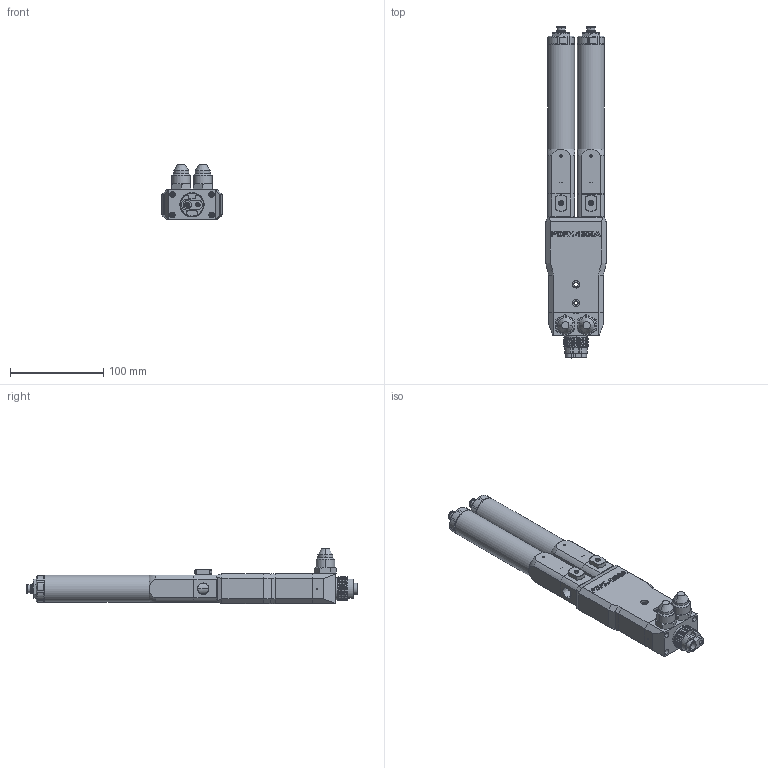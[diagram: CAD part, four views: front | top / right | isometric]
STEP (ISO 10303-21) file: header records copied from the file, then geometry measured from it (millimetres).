
FILE_DESCRIPTION (( 'STEP AP214' ), '1' );
FILE_NAME ('PDP-1500-150FB.STEP', '2024-10-11T12:27:38', ( '' ), ( '' ), 'SwSTEP 2.0', 'SolidWorks 2024', '' );
FILE_SCHEMA (( 'AUTOMOTIVE_DESIGN' ));
Length unit declared in the file: millimetre
Products named in the file (1): PDP-1500-150FB
Bounding box: 65 x 356 x 59.3 mm (x, y, z)
Volume: 525866.7 mm3; surface area: 123509.1 mm2
Topology: 12 solids, 12 shells, 1538 faces, 3895 edges, 2486 vertices
Faces by surface type: plane 768, cylinder 429, cone 298, bspline 23, torus 12, sphere 8
Full cylindrical faces by diameter (mm): 29 x2
Entity records: 66824 total; most frequent: CARTESIAN_POINT 30095, ORIENTED_EDGE 7734, DIRECTION 7419, EDGE_CURVE 3867, AXIS2_PLACEMENT_3D 2640, VERTEX_POINT 2486, VECTOR 2139, LINE 2139
